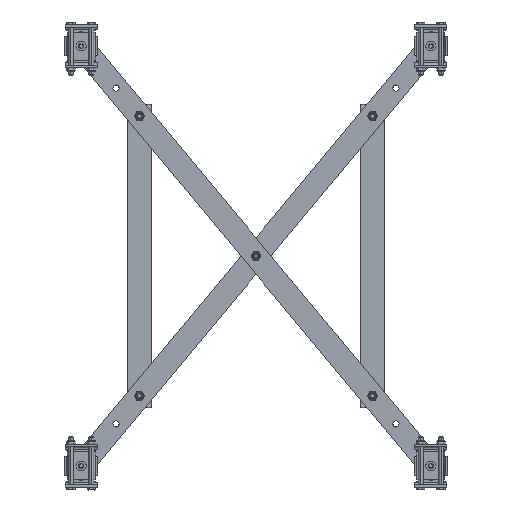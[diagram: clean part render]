
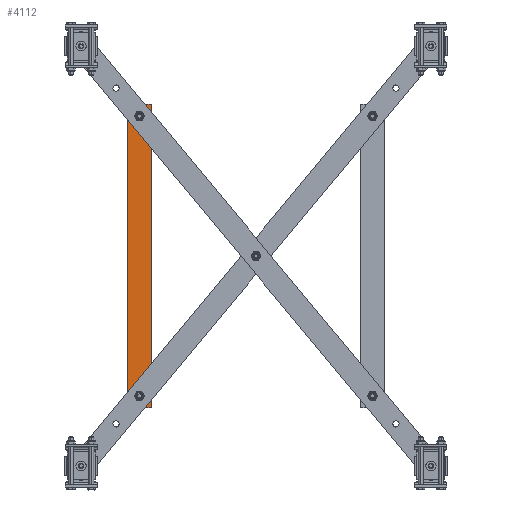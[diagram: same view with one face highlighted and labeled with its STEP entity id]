
A CAD part, front view. The second image highlights one B-rep face of the part: STEP entity #4112.
In plain terms, the highlighted planar face has unit normal (0, -1, 0).
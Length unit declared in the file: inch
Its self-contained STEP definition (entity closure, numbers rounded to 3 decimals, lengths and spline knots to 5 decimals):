
#4 = CARTESIAN_POINT ( 'NONE',  ( -1., -0.125, -13. ) ) ;
#39 = CIRCLE ( 'NONE', #5993, 0.26563 ) ;
#104 = LINE ( 'NONE', #4403, #3657 ) ;
#156 = EDGE_CURVE ( 'NONE', #9251, #7505, #7627, .T. ) ;
#555 = VERTEX_POINT ( 'NONE', #2384 ) ;
#588 = AXIS2_PLACEMENT_3D ( 'NONE', #4302, #4586, #4612 ) ;
#618 = EDGE_CURVE ( 'NONE', #4064, #806, #4666, .T. ) ;
#806 = VERTEX_POINT ( 'NONE', #2588 ) ;
#1028 = EDGE_CURVE ( 'NONE', #6038, #555, #5595, .T. ) ;
#1178 = DIRECTION ( 'NONE',  ( 0., 0., -1. ) ) ;
#1227 = CARTESIAN_POINT ( 'NONE',  ( 1., -0.125, -13. ) ) ;
#1323 = ORIENTED_EDGE ( 'NONE', *, *, #7364, .T. ) ;
#1340 = CARTESIAN_POINT ( 'NONE',  ( 1., -0.125, -13. ) ) ;
#1356 = AXIS2_PLACEMENT_3D ( 'NONE', #7363, #7326, #7225 ) ;
#1366 = VECTOR ( 'NONE', #1178, 39.37008 ) ;
#1560 = VECTOR ( 'NONE', #8716, 39.37008 ) ;
#2156 = EDGE_LOOP ( 'NONE', ( #3350, #5408 ) ) ;
#2189 = ORIENTED_EDGE ( 'NONE', *, *, #7992, .F. ) ;
#2384 = CARTESIAN_POINT ( 'NONE',  ( 0., -0.125, -12.26563 ) ) ;
#2566 = AXIS2_PLACEMENT_3D ( 'NONE', #2981, #2845, #2805 ) ;
#2588 = CARTESIAN_POINT ( 'NONE',  ( 0., -0.125, 11.73438 ) ) ;
#2637 = DIRECTION ( 'NONE',  ( 0., 0., 1. ) ) ;
#2805 = DIRECTION ( 'NONE',  ( 0., 0., 1. ) ) ;
#2845 = DIRECTION ( 'NONE',  ( 0., 1., 0. ) ) ;
#2870 = VERTEX_POINT ( 'NONE', #4799 ) ;
#2885 = CIRCLE ( 'NONE', #1356, 0.26563 ) ;
#2981 = CARTESIAN_POINT ( 'NONE',  ( -1., -0.125, 13. ) ) ;
#3104 = PLANE ( 'NONE',  #2566 ) ;
#3350 = ORIENTED_EDGE ( 'NONE', *, *, #1028, .T. ) ;
#3547 = LINE ( 'NONE', #6636, #9114 ) ;
#3657 = VECTOR ( 'NONE', #4411, 39.37008 ) ;
#3664 = EDGE_LOOP ( 'NONE', ( #7105, #1323 ) ) ;
#3948 = CARTESIAN_POINT ( 'NONE',  ( 0., -0.125, 12.26563 ) ) ;
#4064 = VERTEX_POINT ( 'NONE', #3948 ) ;
#4112 = ADVANCED_FACE ( 'NONE', ( #6118, #5890, #6484 ), #3104, .F. ) ;
#4302 = CARTESIAN_POINT ( 'NONE',  ( 0., -0.125, 12. ) ) ;
#4403 = CARTESIAN_POINT ( 'NONE',  ( -1., -0.125, 13. ) ) ;
#4411 = DIRECTION ( 'NONE',  ( 1., 0., 0. ) ) ;
#4586 = DIRECTION ( 'NONE',  ( 0., 1., 0. ) ) ;
#4612 = DIRECTION ( 'NONE',  ( 0., 0., 1. ) ) ;
#4643 = CARTESIAN_POINT ( 'NONE',  ( -1., -0.125, -13. ) ) ;
#4666 = CIRCLE ( 'NONE', #588, 0.26563 ) ;
#4703 = CARTESIAN_POINT ( 'NONE',  ( 0., -0.125, -12. ) ) ;
#4799 = CARTESIAN_POINT ( 'NONE',  ( -1., -0.125, 13. ) ) ;
#5408 = ORIENTED_EDGE ( 'NONE', *, *, #7706, .T. ) ;
#5419 = ORIENTED_EDGE ( 'NONE', *, *, #8341, .F. ) ;
#5508 = VERTEX_POINT ( 'NONE', #8953 ) ;
#5595 = CIRCLE ( 'NONE', #8762, 0.26563 ) ;
#5764 = EDGE_LOOP ( 'NONE', ( #2189, #6284, #5962, #5419 ) ) ;
#5890 = FACE_BOUND ( 'NONE', #2156, .T. ) ;
#5962 = ORIENTED_EDGE ( 'NONE', *, *, #8754, .F. ) ;
#5993 = AXIS2_PLACEMENT_3D ( 'NONE', #8571, #8553, #8540 ) ;
#6038 = VERTEX_POINT ( 'NONE', #6369 ) ;
#6118 = FACE_BOUND ( 'NONE', #3664, .T. ) ;
#6284 = ORIENTED_EDGE ( 'NONE', *, *, #156, .F. ) ;
#6369 = CARTESIAN_POINT ( 'NONE',  ( 0., -0.125, -11.73438 ) ) ;
#6484 = FACE_OUTER_BOUND ( 'NONE', #5764, .T. ) ;
#6577 = DIRECTION ( 'NONE',  ( 0., 0., 1. ) ) ;
#6636 = CARTESIAN_POINT ( 'NONE',  ( -1., -0.125, -13. ) ) ;
#6756 = DIRECTION ( 'NONE',  ( 0., 1., 0. ) ) ;
#7105 = ORIENTED_EDGE ( 'NONE', *, *, #618, .T. ) ;
#7190 = LINE ( 'NONE', #1227, #1366 ) ;
#7225 = DIRECTION ( 'NONE',  ( 0., 0., 1. ) ) ;
#7326 = DIRECTION ( 'NONE',  ( 0., 1., 0. ) ) ;
#7363 = CARTESIAN_POINT ( 'NONE',  ( 0., -0.125, 12. ) ) ;
#7364 = EDGE_CURVE ( 'NONE', #806, #4064, #2885, .T. ) ;
#7505 = VERTEX_POINT ( 'NONE', #4643 ) ;
#7627 = LINE ( 'NONE', #4, #1560 ) ;
#7706 = EDGE_CURVE ( 'NONE', #555, #6038, #39, .T. ) ;
#7992 = EDGE_CURVE ( 'NONE', #7505, #2870, #3547, .T. ) ;
#8341 = EDGE_CURVE ( 'NONE', #2870, #5508, #104, .T. ) ;
#8540 = DIRECTION ( 'NONE',  ( 0., 0., 1. ) ) ;
#8553 = DIRECTION ( 'NONE',  ( 0., 1., 0. ) ) ;
#8571 = CARTESIAN_POINT ( 'NONE',  ( 0., -0.125, -12. ) ) ;
#8716 = DIRECTION ( 'NONE',  ( -1., 0., 0. ) ) ;
#8754 = EDGE_CURVE ( 'NONE', #5508, #9251, #7190, .T. ) ;
#8762 = AXIS2_PLACEMENT_3D ( 'NONE', #4703, #6756, #2637 ) ;
#8953 = CARTESIAN_POINT ( 'NONE',  ( 1., -0.125, 13. ) ) ;
#9114 = VECTOR ( 'NONE', #6577, 39.37008 ) ;
#9251 = VERTEX_POINT ( 'NONE', #1340 ) ;
